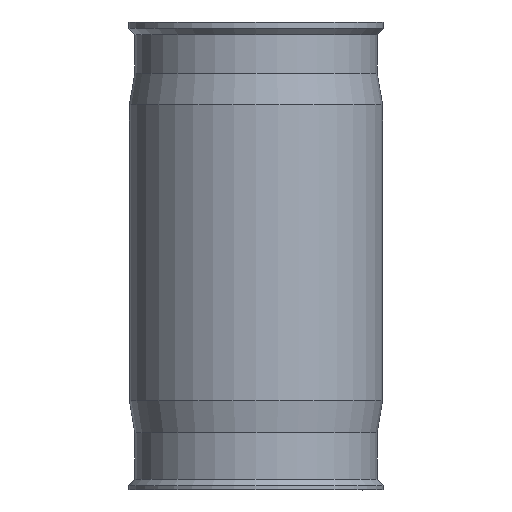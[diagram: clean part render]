
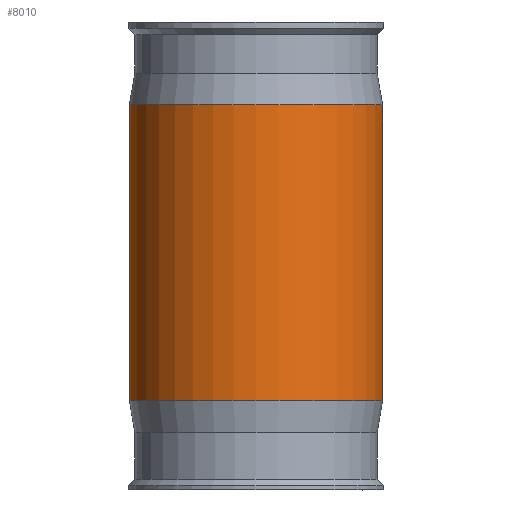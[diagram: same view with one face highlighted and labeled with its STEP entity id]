
A CAD part, front view. The second image highlights one B-rep face of the part: STEP entity #8010.
In plain terms, the highlighted cylindrical face has radius 59.5 mm (diameter 119 mm), a full revolution.
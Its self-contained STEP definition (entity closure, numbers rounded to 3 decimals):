
#892=CIRCLE('',#28886,59.5);
#893=CIRCLE('',#28888,59.5);
#3271=LINE('',#48222,#6150);
#3272=LINE('',#48229,#6151);
#6150=VECTOR('',#34089,1.);
#6151=VECTOR('',#34090,1.);
#6327=CYLINDRICAL_SURFACE('',#28889,59.5);
#6561=FACE_BOUND('',#11715,.T.);
#6562=FACE_BOUND('',#11716,.T.);
#6563=FACE_BOUND('',#11717,.T.);
#8010=ADVANCED_FACE('',(#6561,#6562,#6563),#6327,.T.);
#11715=EDGE_LOOP('',(#19472,#19473,#19474,#19475));
#11716=EDGE_LOOP('',(#19476));
#11717=EDGE_LOOP('',(#19477));
#19472=ORIENTED_EDGE('',*,*,#25967,.T.);
#19473=ORIENTED_EDGE('',*,*,#25944,.F.);
#19474=ORIENTED_EDGE('',*,*,#25968,.T.);
#19475=ORIENTED_EDGE('',*,*,#25946,.F.);
#19476=ORIENTED_EDGE('',*,*,#25970,.T.);
#19477=ORIENTED_EDGE('',*,*,#25969,.T.);
#22065=VERTEX_POINT('',#48220);
#22066=VERTEX_POINT('',#48221);
#22067=VERTEX_POINT('',#48223);
#22068=VERTEX_POINT('',#48228);
#22089=VERTEX_POINT('',#48415);
#22090=VERTEX_POINT('',#48418);
#25944=EDGE_CURVE('',#22066,#22067,#3271,.T.);
#25946=EDGE_CURVE('',#22068,#22065,#3272,.T.);
#25967=EDGE_CURVE('',#22068,#22067,#27688,.T.);
#25968=EDGE_CURVE('',#22066,#22065,#27689,.T.);
#25969=EDGE_CURVE('',#22089,#22089,#892,.T.);
#25970=EDGE_CURVE('',#22090,#22090,#893,.T.);
#27688=B_SPLINE_CURVE_WITH_KNOTS('',3,(#48290,#48291,#48292,#48293,#48294,
#48295,#48296,#48297,#48298,#48299),.UNSPECIFIED.,.F.,.F.,(4,2,2,2,4),(0.,
0.25,0.5,0.75,1.),.UNSPECIFIED.);
#27689=B_SPLINE_CURVE_WITH_KNOTS('',3,(#48352,#48353,#48354,#48355,#48356,
#48357,#48358,#48359,#48360,#48361),.UNSPECIFIED.,.F.,.F.,(4,2,2,2,4),(0.,
0.25,0.5,0.75,1.),.UNSPECIFIED.);
#28886=AXIS2_PLACEMENT_3D('',#48414,#34171,#34172);
#28888=AXIS2_PLACEMENT_3D('',#48417,#34175,#34176);
#28889=AXIS2_PLACEMENT_3D('',#48419,#34177,#34178);
#34089=DIRECTION('',(0.,0.,1.));
#34090=DIRECTION('',(0.,0.,-1.));
#34171=DIRECTION('',(0.,0.,1.));
#34172=DIRECTION('',(0.,-1.,0.));
#34175=DIRECTION('',(0.,0.,-1.));
#34176=DIRECTION('',(0.,1.,0.));
#34177=DIRECTION('',(0.,0.,-1.));
#34178=DIRECTION('',(0.,1.,0.));
#48220=CARTESIAN_POINT('',(13.705,5.9,-10.259));
#48221=CARTESIAN_POINT('',(-13.705,5.9,-10.26));
#48222=CARTESIAN_POINT('',(-13.705,5.9,-14.131));
#48223=CARTESIAN_POINT('',(-13.705,5.9,10.258));
#48228=CARTESIAN_POINT('',(13.705,5.9,10.259));
#48229=CARTESIAN_POINT('',(13.705,5.9,-916.158));
#48290=CARTESIAN_POINT('',(13.705,5.9,10.259));
#48291=CARTESIAN_POINT('',(12.099,6.28,12.353));
#48292=CARTESIAN_POINT('',(10.007,6.701,14.05));
#48293=CARTESIAN_POINT('',(5.3,7.311,16.357));
#48294=CARTESIAN_POINT('',(2.648,7.5,16.973));
#48295=CARTESIAN_POINT('',(-2.63,7.5,16.975));
#48296=CARTESIAN_POINT('',(-5.273,7.315,16.37));
#48297=CARTESIAN_POINT('',(-10.036,6.697,14.038));
#48298=CARTESIAN_POINT('',(-12.115,6.277,12.334));
#48299=CARTESIAN_POINT('',(-13.705,5.9,10.258));
#48352=CARTESIAN_POINT('',(-13.705,5.9,-10.26));
#48353=CARTESIAN_POINT('',(-12.101,6.28,-12.351));
#48354=CARTESIAN_POINT('',(-10.014,6.699,-14.046));
#48355=CARTESIAN_POINT('',(-5.308,7.31,-16.353));
#48356=CARTESIAN_POINT('',(-2.662,7.5,-16.972));
#48357=CARTESIAN_POINT('',(2.648,7.5,-16.976));
#48358=CARTESIAN_POINT('',(5.3,7.311,-16.359));
#48359=CARTESIAN_POINT('',(10.031,6.697,-14.036));
#48360=CARTESIAN_POINT('',(12.115,6.277,-12.332));
#48361=CARTESIAN_POINT('',(13.705,5.9,-10.259));
#48414=CARTESIAN_POINT('',(0.,-52.,-87.758));
#48415=CARTESIAN_POINT('',(0.,-111.5,-87.758));
#48417=CARTESIAN_POINT('',(0.,-52.,51.242));
#48418=CARTESIAN_POINT('',(0.,7.5,51.242));
#48419=CARTESIAN_POINT('',(0.,-52.,-916.158));
